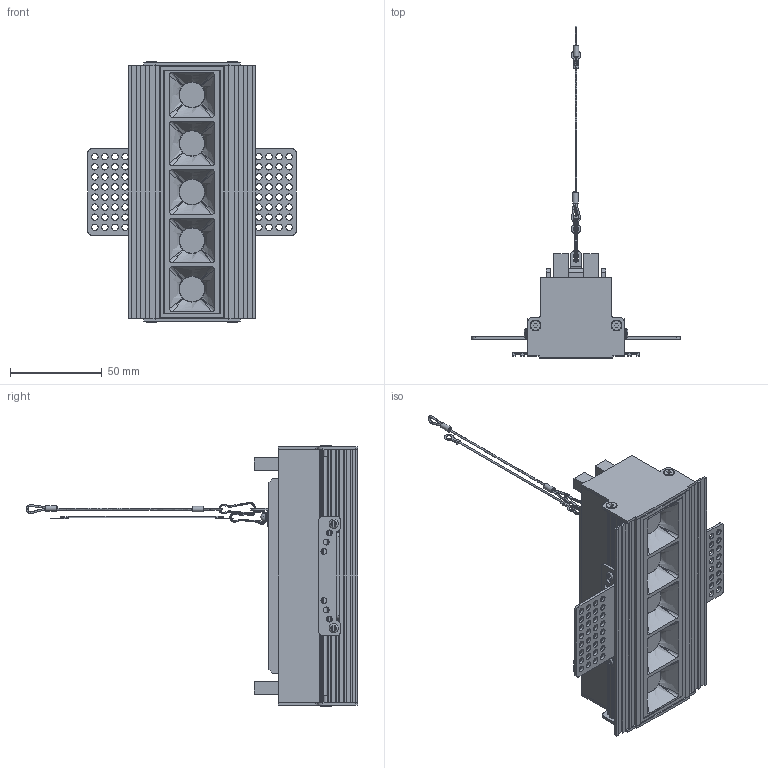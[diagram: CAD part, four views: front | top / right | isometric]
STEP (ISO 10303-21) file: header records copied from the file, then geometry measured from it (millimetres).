
FILE_DESCRIPTION(/* description */ (''),/* implementation_level */ '2;1');
FILE_NAME(/* name */ '010180B05.stp',/* time_stamp */ '2020-01-11T08:12:42+08:00',/* author */ (''),/* organization */ (''),/* preprocessor_version */ 'ST-DEVELOPER v14',/* originating_system */ 'SIEMENS PLM Software NX 8.0',/* authorisation */ '');
FILE_SCHEMA (('AUTOMOTIVE_DESIGN { 1 0 10303 214 3 1 1 1 }'));
Products named in the file (1): Admi15C80392x1fx
Bounding box: 113.7 x 180.92 x 142 mm (x, y, z)
Volume: 147459.6 mm3; surface area: 156086.3 mm2
Topology: 35 solids, 35 shells, 3140 faces, 8834 edges, 5859 vertices
Faces by surface type: plane 1255, bspline 1229, cylinder 429, cone 140, torus 66, revolution 20, sphere 1
Full cylindrical faces by diameter (mm): 0.999 x1, 2 x5, 2.1 x6, 2.3 x4, 2.5 x6, 2.6 x2, 3 x17, 3.2 x19, 3.5 x64, 3.65 x2, 4 x5, 4.7 x1, 5 x5, 5.5 x6, 5.9 x4, 14.1 x5
Entity records: 172557 total; most frequent: CARTESIAN_POINT 100068, ORIENTED_EDGE 16830, DIRECTION 9409, EDGE_CURVE 8415, VERTEX_POINT 5753, B_SPLINE_CURVE_WITH_KNOTS 3965, EDGE_LOOP 3854, LINE 3225
